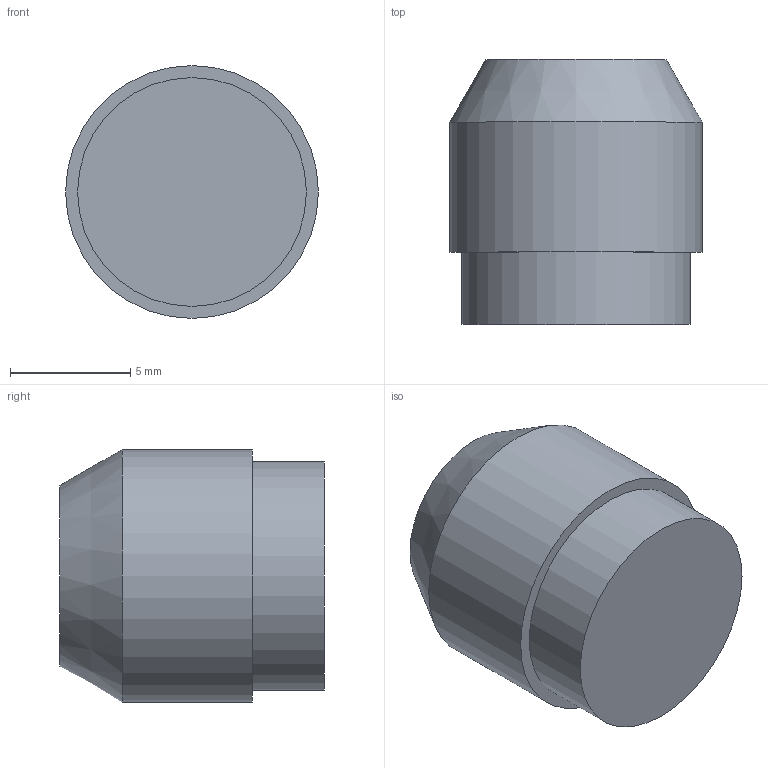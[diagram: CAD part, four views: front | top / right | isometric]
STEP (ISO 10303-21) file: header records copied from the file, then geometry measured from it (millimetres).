
FILE_DESCRIPTION( ( 'STEP AP214' ), '1' );
FILE_NAME( 'C:/Users/KOSH/Desktop/Final Delta 2020/Export/78920.stp', '2020-11-25T08:49:55', ( '' ), ( '' ), ' ', 'PARTsolutions', ' ' );
FILE_SCHEMA( ( 'AUTOMOTIVE_DESIGN { 1 0 10303 214 1 1 1 1 }' ) );
Length unit declared in the file: millimetre
Products named in the file (1): _78920
Bounding box: 10.5 x 11 x 10.5 mm (x, y, z)
Volume: 847.2 mm3; surface area: 483.3 mm2
Topology: 1 solids, 1 shells, 6 faces, 8 edges, 5 vertices
Faces by surface type: plane 3, cylinder 2, cone 1
Full cylindrical faces by diameter (mm): 9.5 x1, 10.5 x1
Entity records: 178 total; most frequent: DIRECTION 24, CARTESIAN_POINT 17, AXIS2_PLACEMENT_3D 12, EDGE_LOOP 10, ORIENTED_EDGE 10, FACE_OUTER_BOUND 8, STYLED_ITEM 6, PRESENTATION_STYLE_ASSIGNMENT 6
